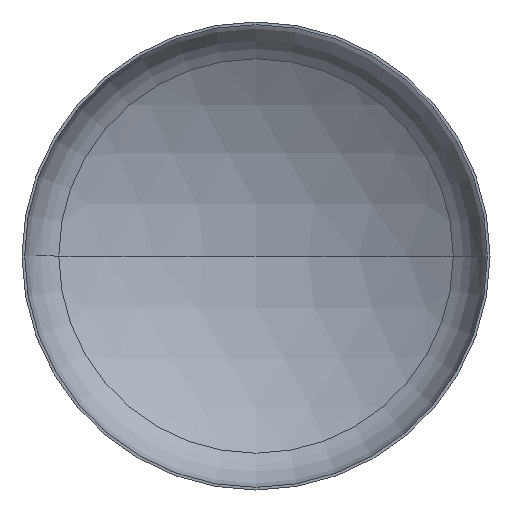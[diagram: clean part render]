
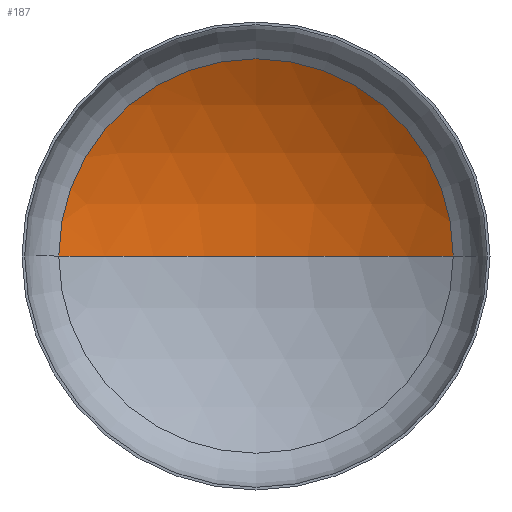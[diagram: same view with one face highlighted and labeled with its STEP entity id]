
A CAD part, front view. The second image highlights one B-rep face of the part: STEP entity #187.
In plain terms, the highlighted spherical face has radius 4800 mm.
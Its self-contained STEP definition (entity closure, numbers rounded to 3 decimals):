
#13 = CARTESIAN_POINT ( 'NONE',  ( 0., 896.292, 0. ) ) ;
#14 = ORIENTED_EDGE ( 'NONE', *, *, #255, .T. ) ;
#19 = DIRECTION ( 'NONE',  ( 1., 0., 0. ) ) ;
#26 = ORIENTED_EDGE ( 'NONE', *, *, #257, .T. ) ;
#56 = ORIENTED_EDGE ( 'NONE', *, *, #266, .F. ) ;
#57 = VERTEX_POINT ( 'NONE', #181 ) ;
#74 = DIRECTION ( 'NONE',  ( 1., 0., 0. ) ) ;
#104 = VERTEX_POINT ( 'NONE', #167 ) ;
#128 = VERTEX_POINT ( 'NONE', #176 ) ;
#129 = EDGE_LOOP ( 'NONE', ( #56, #26, #14 ) ) ;
#140 = AXIS2_PLACEMENT_3D ( 'NONE', #392, #259, #19 ) ;
#144 = AXIS2_PLACEMENT_3D ( 'NONE', #329, #171, #348 ) ;
#150 = DIRECTION ( 'NONE',  ( -1., 0., 0. ) ) ;
#151 = AXIS2_PLACEMENT_3D ( 'NONE', #13, #287, #74 ) ;
#164 = CARTESIAN_POINT ( 'NONE',  ( 0., -3183.925, 0. ) ) ;
#167 = CARTESIAN_POINT ( 'NONE',  ( 2528.206, 896.292, 0. ) ) ;
#171 = DIRECTION ( 'NONE',  ( 0., 0., -1. ) ) ;
#176 = CARTESIAN_POINT ( 'NONE',  ( -2528.206, 896.292, 0. ) ) ;
#181 = CARTESIAN_POINT ( 'NONE',  ( 0., 1616.075, 0. ) ) ;
#187 = ADVANCED_FACE ( 'NONE', ( #356 ), #347, .F. ) ;
#203 = CIRCLE ( 'NONE', #144, 4800. ) ;
#206 = DIRECTION ( 'NONE',  ( 0., 0., -1. ) ) ;
#221 = AXIS2_PLACEMENT_3D ( 'NONE', #164, #206, #150 ) ;
#255 = EDGE_CURVE ( 'NONE', #104, #128, #282, .T. ) ;
#257 = EDGE_CURVE ( 'NONE', #57, #104, #203, .T. ) ;
#259 = DIRECTION ( 'NONE',  ( 0., 0., 1. ) ) ;
#266 = EDGE_CURVE ( 'NONE', #57, #128, #388, .T. ) ;
#282 = CIRCLE ( 'NONE', #151, 2528.206 ) ;
#287 = DIRECTION ( 'NONE',  ( 0., -1., 0. ) ) ;
#329 = CARTESIAN_POINT ( 'NONE',  ( 0., -3183.925, 0. ) ) ;
#347 = SPHERICAL_SURFACE ( 'NONE', #221, 4800. ) ;
#348 = DIRECTION ( 'NONE',  ( -1., 0., 0. ) ) ;
#356 = FACE_OUTER_BOUND ( 'NONE', #129, .T. ) ;
#388 = CIRCLE ( 'NONE', #140, 4800. ) ;
#392 = CARTESIAN_POINT ( 'NONE',  ( 0., -3183.925, 0. ) ) ;
